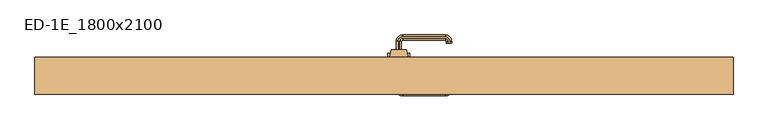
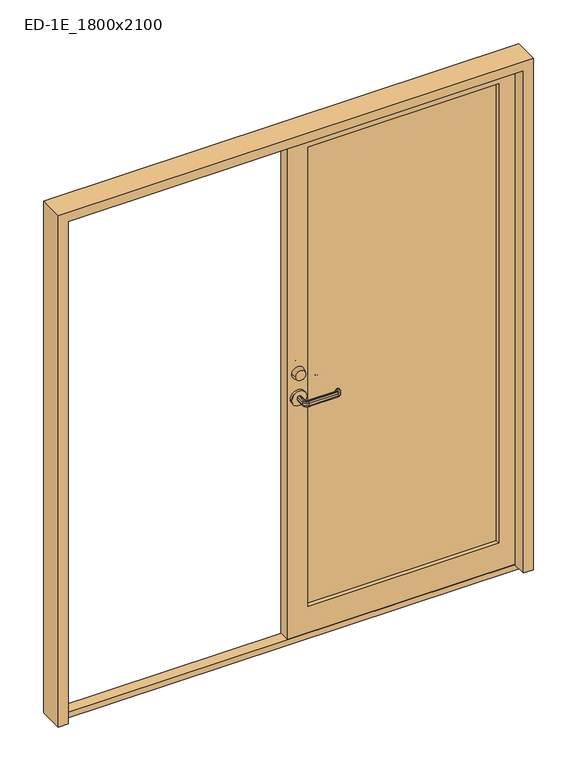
"""IFC4 building model written with IfcOpenShell, lengths in millimetres: door geometry, Steel_Doule-Door-Entrance : ED-1E_1800x2100."""

from ifc_helpers import new_model, si_unit, point, frame, frame_2d, origin, place, context, project, spatial, polyline, circle_curve, ellipse_curve, trimmed, segment, composite_curve, outline, extrude, faceted_brep, source, transform, mapped, element, save
from ifc_brep_helpers import plane_surface, cylinder_surface, revolved_surface, advanced_brep


def ed_1e_1800x2100_9003eb68(model_context):
    return source(origin(), model_context, "Body", "SolidModel", [
        extrude(outline(polyline([(915.0, 54.5), (915.0, 9.5), (-915.0, 9.5), (-915.0, 54.5), (915.0, 54.5)])), frame((0.0, 0.0, -20.0), z_axis=(0.0, 0.0, 1.0), x_axis=(1.0, 0.0, 0.0)), (0.0, 0.0, 1.0), 23.0),
        advanced_brep(
        [(20.0, 74.5, 1106.3812925), (60.0, 74.5, 1106.3812925), (15.0, 54.5, 1106.3812925), (65.0, 54.5, 1106.3812925)],
        [
            (0, 1, circle_curve(frame((40.0, 74.5, 1106.3812925), z_axis=(0.0, 1.0, 0.0), x_axis=(-1.0, 0.0, 0.0)), 20.0)),
            (1, 0, circle_curve(frame((40.0, 74.5, 1106.3812925), z_axis=(0.0, 1.0, 0.0), x_axis=(1.0, 0.0, 0.0)), 20.0)),
            (2, 3, circle_curve(frame((40.0, 54.5, 1106.3812925), z_axis=(0.0, -1.0, 0.0), x_axis=(1.0, 0.0, 0.0)), 25.0)),
            (3, 2, circle_curve(frame((40.0, 54.5, 1106.3812925), z_axis=(0.0, -1.0, 0.0), x_axis=(-1.0, 0.0, 0.0)), 25.0)),
            (2, 0),
            (1, 3),
        ],
        [
            plane_surface(frame((40.0, 74.5, 1106.3812925), z_axis=(0.0, 1.0, 0.0), x_axis=(0.0, 0.0, 1.0))),
            plane_surface(frame((40.0, 54.5, 1106.3812925), z_axis=(0.0, -1.0, 0.0), x_axis=(0.0, 0.0, 1.0))),
            revolved_surface(polyline([(60.0, 74.5, 1106.3812925), (65.0, 54.5, 1106.3812925)]), (40.0, 154.5, 1106.3812925), (0.0, -1.0, 0.0)),
            revolved_surface(polyline([(20.0, 74.5, 1106.3812925), (15.0, 54.5, 1106.3812925)]), (40.0, 154.5, 1106.3812925), (0.0, -1.0, 0.0)),
        ],
        [
            (0, [[1, 2]]),
            (1, [[3, 4]]),
            (2, [[-3, 5, -2, 6]]),
            (3, [[-4, -6, -1, -5]]),
        ],
    ),
        advanced_brep(
        [(20.0, -10.5, 1106.3812925), (60.0, -10.5, 1106.3812925), (15.0, 9.5, 1106.3812925), (65.0, 9.5, 1106.3812925)],
        [
            (0, 1, circle_curve(frame((40.0, -10.5, 1106.3812925), z_axis=(0.0, -1.0, 0.0), x_axis=(-1.0, 0.0, 0.0)), 20.0)),
            (1, 0, circle_curve(frame((40.0, -10.5, 1106.3812925), z_axis=(0.0, -1.0, 0.0), x_axis=(1.0, 0.0, 0.0)), 20.0)),
            (2, 3, circle_curve(frame((40.0, 9.5, 1106.3812925), z_axis=(0.0, 1.0, 0.0), x_axis=(1.0, 0.0, 0.0)), 25.0)),
            (3, 2, circle_curve(frame((40.0, 9.5, 1106.3812925), z_axis=(0.0, 1.0, 0.0), x_axis=(-1.0, 0.0, 0.0)), 25.0)),
            (3, 1),
            (0, 2),
        ],
        [
            plane_surface(frame((40.0, -10.5, 1106.3812925), z_axis=(0.0, -1.0, 0.0), x_axis=(0.0, 0.0, -1.0))),
            plane_surface(frame((40.0, 9.5, 1106.3812925), z_axis=(0.0, 1.0, 0.0), x_axis=(0.0, 0.0, -1.0))),
            revolved_surface(polyline([(20.0, -10.5, 1106.3812925), (15.0, 9.5, 1106.3812925)]), (40.0, -90.5, 1106.3812925), (0.0, 1.0, 0.0)),
            revolved_surface(polyline([(60.0, -10.5, 1106.3812925), (65.0, 9.5, 1106.3812925)]), (40.0, -90.5, 1106.3812925), (0.0, 1.0, 0.0)),
        ],
        [
            (0, [[1, 2]]),
            (1, [[3, 4]]),
            (2, [[-4, 5, -1, 6]]),
            (3, [[-3, -6, -2, -5]]),
        ],
    ),
        advanced_brep(
        [(38.0, 64.5, 1015.0), (33.0, 64.5, 1010.0), (33.0, 64.5, 1000.0477623), (38.0, 64.5, 995.0477623), (42.0, 64.5, 995.0477623), (47.0, 64.5, 1000.0477623), (47.0, 64.5, 1010.0), (42.0, 64.5, 1015.0), (38.0, 97.0, 1015.0), (33.0, 97.0, 1010.0), (33.0, 97.0, 1000.0477623), (38.0, 97.0, 995.0477623), (50.0, 109.0, 995.0477623), (165.0, 109.0, 995.0477623), (177.0, 97.0, 995.0477623), (177.0, 92.0, 995.0477623), (173.0, 92.0, 995.0477623), (173.0, 97.0, 995.0477623), (165.0, 105.0, 995.0477623), (50.0, 105.0, 995.0477623), (42.0, 97.0, 995.0477623), (47.0, 97.0, 1000.0477623), (47.0, 97.0, 1010.0), (42.0, 97.0, 1015.0), (50.0, 105.0, 1015.0), (165.0, 105.0, 1015.0), (173.0, 97.0, 1015.0), (173.0, 92.0, 1015.0), (177.0, 92.0, 1015.0), (177.0, 97.0, 1015.0), (165.0, 109.0, 1015.0), (50.0, 109.0, 1015.0), (50.0, 114.0, 1010.0), (50.0, 114.0, 1000.0477623), (50.0, 100.0, 1000.0477623), (50.0, 100.0, 1010.0), (165.0, 114.0, 1010.0), (165.0, 114.0, 1000.0477623), (165.0, 100.0, 1000.0477623), (165.0, 100.0, 1010.0), (182.0, 97.0, 1010.0), (182.0, 97.0, 1000.0477623), (168.0, 97.0, 1000.0477623), (168.0, 97.0, 1010.0), (168.0, 92.0, 1010.0), (168.0, 92.0, 1000.0477623), (182.0, 92.0, 1000.0477623), (182.0, 92.0, 1010.0)],
        [
            (0, 1, circle_curve(frame((38.0, 64.5, 1010.0), z_axis=(0.0, -1.0, 0.0), x_axis=(-1.0, 0.0, 0.0)), 5.0)),
            (1, 2),
            (2, 3, circle_curve(frame((38.0, 64.5, 1000.0477623), z_axis=(0.0, -1.0, 0.0), x_axis=(-1.0, 0.0, 0.0)), 5.0)),
            (3, 4),
            (4, 5, circle_curve(frame((42.0, 64.5, 1000.0477623), z_axis=(0.0, -1.0, 0.0), x_axis=(-1.0, 0.0, 0.0)), 5.0)),
            (5, 6),
            (6, 7, circle_curve(frame((42.0, 64.5, 1010.0), z_axis=(0.0, -1.0, 0.0), x_axis=(-1.0, 0.0, 0.0)), 5.0)),
            (7, 0),
            (0, 8),
            (8, 9, circle_curve(frame((38.0, 97.0, 1010.0), z_axis=(0.0, -1.0, 0.0), x_axis=(-1.0, 0.0, 0.0)), 5.0)),
            (9, 1),
            (9, 10),
            (10, 2),
            (10, 11, circle_curve(frame((38.0, 97.0, 1000.0477623), z_axis=(0.0, -1.0, 0.0), x_axis=(-1.0, 0.0, 0.0)), 5.0)),
            (11, 3),
            (11, 12, circle_curve(frame((50.0, 97.0, 995.0477623), z_axis=(0.0, 0.0, -1.0), x_axis=(-1.0, 0.0, 0.0)), 12.0)),
            (12, 13),
            (13, 14, circle_curve(frame((165.0, 97.0, 995.0477623), z_axis=(0.0, 0.0, -1.0), x_axis=(0.0, 1.0, 0.0)), 12.0)),
            (14, 15),
            (15, 16),
            (16, 17),
            (17, 18, circle_curve(frame((165.0, 97.0, 995.0477623), z_axis=(0.0, 0.0, 1.0), x_axis=(0.0, 1.0, 0.0)), 8.0)),
            (18, 19),
            (19, 20, circle_curve(frame((50.0, 97.0, 995.0477623), z_axis=(0.0, 0.0, 1.0), x_axis=(-1.0, 0.0, 0.0)), 8.0)),
            (20, 4),
            (20, 21, circle_curve(frame((42.0, 97.0, 1000.0477623), z_axis=(0.0, -1.0, 0.0), x_axis=(-1.0, 0.0, 0.0)), 5.0)),
            (21, 5),
            (21, 22),
            (22, 6),
            (22, 23, circle_curve(frame((42.0, 97.0, 1010.0), z_axis=(0.0, -1.0, 0.0), x_axis=(-1.0, 0.0, 0.0)), 5.0)),
            (23, 7),
            (23, 24, circle_curve(frame((50.0, 97.0, 1015.0), z_axis=(0.0, 0.0, -1.0), x_axis=(-1.0, 0.0, 0.0)), 8.0)),
            (24, 25),
            (25, 26, circle_curve(frame((165.0, 97.0, 1015.0), z_axis=(0.0, 0.0, -1.0), x_axis=(0.0, 1.0, 0.0)), 8.0)),
            (26, 27),
            (27, 28),
            (28, 29),
            (29, 30, circle_curve(frame((165.0, 97.0, 1015.0), z_axis=(0.0, 0.0, 1.0), x_axis=(0.0, 1.0, 0.0)), 12.0)),
            (30, 31),
            (31, 8, circle_curve(frame((50.0, 97.0, 1015.0), z_axis=(0.0, 0.0, 1.0), x_axis=(-1.0, 0.0, 0.0)), 12.0)),
            (32, 9, circle_curve(frame((50.0, 97.0, 1010.0), z_axis=(0.0, 0.0, 1.0), x_axis=(-1.0, 0.0, 0.0)), 17.0)),
            (31, 32, circle_curve(frame((50.0, 109.0, 1010.0), z_axis=(-1.0, 0.0, 0.0), x_axis=(0.0, 1.0, 0.0)), 5.0)),
            (33, 10, circle_curve(frame((50.0, 97.0, 1000.0477623), z_axis=(0.0, 0.0, 1.0), x_axis=(-1.0, 0.0, 0.0)), 17.0)),
            (32, 33),
            (33, 12, circle_curve(frame((50.0, 109.0, 1000.0477623), z_axis=(-1.0, 0.0, 0.0), x_axis=(0.0, 1.0, 0.0)), 5.0)),
            (34, 21, circle_curve(frame((50.0, 97.0, 1000.0477623), z_axis=(0.0, 0.0, 1.0), x_axis=(-1.0, 0.0, 0.0)), 3.0)),
            (19, 34, circle_curve(frame((50.0, 105.0, 1000.0477623), z_axis=(-1.0, 0.0, 0.0), x_axis=(0.0, 1.0, 0.0)), 5.0)),
            (35, 22, circle_curve(frame((50.0, 97.0, 1010.0), z_axis=(0.0, 0.0, 1.0), x_axis=(-1.0, 0.0, 0.0)), 3.0)),
            (34, 35),
            (35, 24, circle_curve(frame((50.0, 105.0, 1010.0), z_axis=(-1.0, 0.0, 0.0), x_axis=(0.0, 1.0, 0.0)), 5.0)),
            (30, 36, circle_curve(frame((165.0, 109.0, 1010.0), z_axis=(-1.0, 0.0, 0.0), x_axis=(0.0, 1.0, 0.0)), 5.0)),
            (36, 32),
            (36, 37),
            (37, 33),
            (37, 13, circle_curve(frame((165.0, 109.0, 1000.0477623), z_axis=(-1.0, 0.0, 0.0), x_axis=(0.0, 1.0, 0.0)), 5.0)),
            (18, 38, circle_curve(frame((165.0, 105.0, 1000.0477623), z_axis=(-1.0, 0.0, 0.0), x_axis=(0.0, 1.0, 0.0)), 5.0)),
            (38, 34),
            (38, 39),
            (39, 35),
            (39, 25, circle_curve(frame((165.0, 105.0, 1010.0), z_axis=(-1.0, 0.0, 0.0), x_axis=(0.0, 1.0, 0.0)), 5.0)),
            (40, 36, circle_curve(frame((165.0, 97.0, 1010.0), z_axis=(0.0, 0.0, 1.0), x_axis=(0.0, 1.0, 0.0)), 17.0)),
            (29, 40, circle_curve(frame((177.0, 97.0, 1010.0), z_axis=(0.0, 1.0, 0.0), x_axis=(1.0, 0.0, 0.0)), 5.0)),
            (41, 37, circle_curve(frame((165.0, 97.0, 1000.0477623), z_axis=(0.0, 0.0, 1.0), x_axis=(0.0, 1.0, 0.0)), 17.0)),
            (40, 41),
            (41, 14, circle_curve(frame((177.0, 97.0, 1000.0477623), z_axis=(0.0, 1.0, 0.0), x_axis=(1.0, 0.0, 0.0)), 5.0)),
            (42, 38, circle_curve(frame((165.0, 97.0, 1000.0477623), z_axis=(0.0, 0.0, 1.0), x_axis=(0.0, 1.0, 0.0)), 3.0)),
            (17, 42, circle_curve(frame((173.0, 97.0, 1000.0477623), z_axis=(0.0, 1.0, 0.0), x_axis=(1.0, 0.0, 0.0)), 5.0)),
            (43, 39, circle_curve(frame((165.0, 97.0, 1010.0), z_axis=(0.0, 0.0, 1.0), x_axis=(0.0, 1.0, 0.0)), 3.0)),
            (42, 43),
            (43, 26, circle_curve(frame((173.0, 97.0, 1010.0), z_axis=(0.0, 1.0, 0.0), x_axis=(1.0, 0.0, 0.0)), 5.0)),
            (27, 44, circle_curve(frame((173.0, 92.0, 1010.0), z_axis=(0.0, -1.0, 0.0), x_axis=(1.0, 0.0, 0.0)), 5.0)),
            (44, 45),
            (45, 16, circle_curve(frame((173.0, 92.0, 1000.0477623), z_axis=(0.0, -1.0, 0.0), x_axis=(1.0, 0.0, 0.0)), 5.0)),
            (15, 46, circle_curve(frame((177.0, 92.0, 1000.0477623), z_axis=(0.0, -1.0, 0.0), x_axis=(1.0, 0.0, 0.0)), 5.0)),
            (46, 47),
            (47, 28, circle_curve(frame((177.0, 92.0, 1010.0), z_axis=(0.0, -1.0, 0.0), x_axis=(1.0, 0.0, 0.0)), 5.0)),
            (47, 40),
            (46, 41),
            (45, 42),
            (44, 43),
        ],
        [
            plane_surface(frame((29.801961, 64.5, 1005.0), z_axis=(0.0, -1.0, 0.0), x_axis=(0.0, 0.0, 1.0))),
            cylinder_surface(frame((38.0, 64.5, 1010.0), z_axis=(0.0, -1.0, 0.0), x_axis=(-1.0, 0.0, 0.0)), 5.0),
            plane_surface(frame((33.0, 64.5, 1010.0), z_axis=(-1.0, 0.0, 0.0), x_axis=(0.0, 1.0, 0.0))),
            cylinder_surface(frame((38.0, 64.5, 1000.0477623), z_axis=(0.0, -1.0, 0.0), x_axis=(-1.0, 0.0, 0.0)), 5.0),
            plane_surface(frame((38.0, 64.5, 995.0477623), z_axis=(0.0, 0.0, -1.0), x_axis=(0.0, 1.0, 0.0))),
            cylinder_surface(frame((42.0, 64.5, 1000.0477623), z_axis=(0.0, -1.0, 0.0), x_axis=(-1.0, 0.0, 0.0)), 5.0),
            plane_surface(frame((47.0, 64.5, 1000.0477623), z_axis=(1.0, 0.0, 0.0), x_axis=(0.0, 1.0, 0.0))),
            cylinder_surface(frame((42.0, 64.5, 1010.0), z_axis=(0.0, -1.0, 0.0), x_axis=(-1.0, 0.0, 0.0)), 5.0),
            plane_surface(frame((42.0, 64.5, 1015.0), z_axis=(0.0, 0.0, 1.0), x_axis=(0.0, 1.0, 0.0))),
            revolved_surface(trimmed(ellipse_curve(frame((38.0, 97.0, 1010.0), z_axis=(0.0, -1.0, 0.0), x_axis=(-1.0, 0.0, 0.0)), 5.0, 5.0), [point((38.0, 97.0, 1015.0))], [point((33.0, 97.0, 1010.0))], True, "CARTESIAN"), (50.0, 97.0, 1005.0), (0.0, 0.0, -1.0)),
            cylinder_surface(frame((50.0, 97.0, 1005.0), z_axis=(0.0, 0.0, -1.0), x_axis=(-1.0, 0.0, 0.0)), 17.0),
            revolved_surface(trimmed(ellipse_curve(frame((38.0, 97.0, 1000.0477623), z_axis=(0.0, -1.0, 0.0), x_axis=(-1.0, 0.0, 0.0)), 5.0, 5.0), [point((33.0, 97.0, 1000.0477623))], [point((38.0, 97.0, 995.0477623))], True, "CARTESIAN"), (50.0, 97.0, 1005.0), (0.0, 0.0, -1.0)),
            revolved_surface(trimmed(ellipse_curve(frame((42.0, 97.0, 1000.0477623), z_axis=(0.0, -1.0, 0.0), x_axis=(-1.0, 0.0, 0.0)), 5.0, 5.0), [point((42.0, 97.0, 995.0477623))], [point((47.0, 97.0, 1000.0477623))], True, "CARTESIAN"), (50.0, 97.0, 1005.0), (0.0, 0.0, -1.0)),
            revolved_surface(polyline([(47.0, 97.0, 1000.0477623), (47.0, 97.0, 1010.0)]), (50.0, 97.0, 1005.0), (0.0, 0.0, -1.0)),
            revolved_surface(trimmed(ellipse_curve(frame((42.0, 97.0, 1010.0), z_axis=(0.0, -1.0, 0.0), x_axis=(-1.0, 0.0, 0.0)), 5.0, 5.0), [point((47.0, 97.0, 1010.0))], [point((42.0, 97.0, 1015.0))], True, "CARTESIAN"), (50.0, 97.0, 1005.0), (0.0, 0.0, -1.0)),
            cylinder_surface(frame((50.0, 109.0, 1010.0), z_axis=(-1.0, 0.0, 0.0), x_axis=(0.0, 1.0, 0.0)), 5.0),
            plane_surface(frame((50.0, 114.0, 1010.0), z_axis=(0.0, 1.0, 0.0), x_axis=(1.0, 0.0, 0.0))),
            cylinder_surface(frame((50.0, 109.0, 1000.0477623), z_axis=(-1.0, 0.0, 0.0), x_axis=(0.0, 1.0, 0.0)), 5.0),
            cylinder_surface(frame((50.0, 105.0, 1000.0477623), z_axis=(-1.0, 0.0, 0.0), x_axis=(0.0, 1.0, 0.0)), 5.0),
            plane_surface(frame((50.0, 100.0, 1000.0477623), z_axis=(0.0, -1.0, 0.0), x_axis=(1.0, 0.0, 0.0))),
            cylinder_surface(frame((50.0, 105.0, 1010.0), z_axis=(-1.0, 0.0, 0.0), x_axis=(0.0, 1.0, 0.0)), 5.0),
            revolved_surface(trimmed(ellipse_curve(frame((165.0, 109.0, 1010.0), z_axis=(-1.0, 0.0, 0.0), x_axis=(0.0, 1.0, 0.0)), 5.0, 5.0), [point((165.0, 109.0, 1015.0))], [point((165.0, 114.0, 1010.0))], True, "CARTESIAN"), (165.0, 97.0, 1005.0), (0.0, 0.0, -1.0)),
            cylinder_surface(frame((165.0, 97.0, 1005.0), z_axis=(0.0, 0.0, -1.0), x_axis=(0.0, 1.0, 0.0)), 17.0),
            revolved_surface(trimmed(ellipse_curve(frame((165.0, 109.0, 1000.0477623), z_axis=(-1.0, 0.0, 0.0), x_axis=(0.0, 1.0, 0.0)), 5.0, 5.0), [point((165.0, 114.0, 1000.0477623))], [point((165.0, 109.0, 995.0477623))], True, "CARTESIAN"), (165.0, 97.0, 1005.0), (0.0, 0.0, -1.0)),
            revolved_surface(trimmed(ellipse_curve(frame((165.0, 105.0, 1000.0477623), z_axis=(-1.0, 0.0, 0.0), x_axis=(0.0, 1.0, 0.0)), 5.0, 5.0), [point((165.0, 105.0, 995.0477623))], [point((165.0, 100.0, 1000.0477623))], True, "CARTESIAN"), (165.0, 97.0, 1005.0), (0.0, 0.0, -1.0)),
            revolved_surface(polyline([(165.0, 100.0, 1000.0477623), (165.0, 100.0, 1010.0)]), (165.0, 97.0, 1005.0), (0.0, 0.0, -1.0)),
            revolved_surface(trimmed(ellipse_curve(frame((165.0, 105.0, 1010.0), z_axis=(-1.0, 0.0, 0.0), x_axis=(0.0, 1.0, 0.0)), 5.0, 5.0), [point((165.0, 100.0, 1010.0))], [point((165.0, 105.0, 1015.0))], True, "CARTESIAN"), (165.0, 97.0, 1005.0), (0.0, 0.0, -1.0)),
            plane_surface(frame((164.801961, 92.0, 1005.0), z_axis=(0.0, -1.0, 0.0), x_axis=(0.0, 0.0, -1.0))),
            cylinder_surface(frame((177.0, 97.0, 1010.0), z_axis=(0.0, 1.0, 0.0), x_axis=(1.0, 0.0, 0.0)), 5.0),
            plane_surface(frame((182.0, 97.0, 1010.0), z_axis=(1.0, 0.0, 0.0), x_axis=(0.0, -1.0, 0.0))),
            cylinder_surface(frame((177.0, 97.0, 1000.0477623), z_axis=(0.0, 1.0, 0.0), x_axis=(1.0, 0.0, 0.0)), 5.0),
            cylinder_surface(frame((173.0, 97.0, 1000.0477623), z_axis=(0.0, 1.0, 0.0), x_axis=(1.0, 0.0, 0.0)), 5.0),
            plane_surface(frame((168.0, 97.0, 1000.0477623), z_axis=(-1.0, 0.0, 0.0), x_axis=(0.0, -1.0, 0.0))),
            cylinder_surface(frame((173.0, 97.0, 1010.0), z_axis=(0.0, 1.0, 0.0), x_axis=(1.0, 0.0, 0.0)), 5.0),
        ],
        [
            (0, [[1, 2, 3, 4, 5, 6, 7, 8]]),
            (1, [[-1, 9, 10, 11]]),
            (2, [[-2, -11, 12, 13]]),
            (3, [[-3, -13, 14, 15]]),
            (4, [[-4, -15, 16, 17, 18, 19, 20, 21, 22, 23, 24, 25]]),
            (5, [[-5, -25, 26, 27]]),
            (6, [[-6, -27, 28, 29]]),
            (7, [[-7, -29, 30, 31]]),
            (8, [[-8, -31, 32, 33, 34, 35, 36, 37, 38, 39, 40, -9]]),
            (9, [[41, -10, -40, 42]]),
            (10, [[43, -12, -41, 44]]),
            (11, [[-16, -14, -43, 45]]),
            (12, [[46, -26, -24, 47]]),
            (13, [[48, -28, -46, 49]]),
            (14, [[-32, -30, -48, 50]]),
            (15, [[-42, -39, 51, 52]]),
            (16, [[-44, -52, 53, 54]]),
            (17, [[-45, -54, 55, -17]]),
            (18, [[-47, -23, 56, 57]]),
            (19, [[-49, -57, 58, 59]]),
            (20, [[-50, -59, 60, -33]]),
            (21, [[61, -51, -38, 62]]),
            (22, [[63, -53, -61, 64]]),
            (23, [[-18, -55, -63, 65]]),
            (24, [[66, -56, -22, 67]]),
            (25, [[68, -58, -66, 69]]),
            (26, [[-34, -60, -68, 70]]),
            (27, [[-36, 71, 72, 73, -20, 74, 75, 76]]),
            (28, [[-62, -37, -76, 77]]),
            (29, [[-64, -77, -75, 78]]),
            (30, [[-65, -78, -74, -19]]),
            (31, [[-67, -21, -73, 79]]),
            (32, [[-69, -79, -72, 80]]),
            (33, [[-70, -80, -71, -35]]),
        ],
    ),
        advanced_brep(
        [(42.0, -0.5, 995.0), (38.0, -0.5, 995.0), (33.0, -0.5, 1000.0), (33.0, -0.5, 1010.0), (38.0, -0.5, 1015.0), (42.0, -0.5, 1015.0), (47.0, -0.5, 1010.0), (47.0, -0.5, 1000.0), (42.0, -33.0, 995.0), (50.0, -41.0, 995.0), (165.0, -41.0, 995.0), (173.0, -33.0, 995.0), (173.0, -28.0, 995.0), (177.0, -28.0, 995.0), (177.0, -33.0, 995.0), (165.0, -45.0, 995.0), (50.0, -45.0, 995.0), (38.0, -33.0, 995.0), (33.0, -33.0, 1000.0), (33.0, -33.0, 1010.0), (38.0, -33.0, 1015.0), (50.0, -45.0, 1015.0), (165.0, -45.0, 1015.0), (177.0, -33.0, 1015.0), (177.0, -28.0, 1015.0), (173.0, -28.0, 1015.0), (173.0, -33.0, 1015.0), (165.0, -41.0, 1015.0), (50.0, -41.0, 1015.0), (42.0, -33.0, 1015.0), (47.0, -33.0, 1010.0), (47.0, -33.0, 1000.0), (50.0, -50.0, 1000.0), (50.0, -50.0, 1010.0), (50.0, -36.0, 1010.0), (50.0, -36.0, 1000.0), (165.0, -50.0, 1000.0), (165.0, -50.0, 1010.0), (165.0, -36.0, 1010.0), (165.0, -36.0, 1000.0), (182.0, -33.0, 1000.0), (182.0, -33.0, 1010.0), (168.0, -33.0, 1010.0), (168.0, -33.0, 1000.0), (168.0, -28.0, 1000.0), (168.0, -28.0, 1010.0), (182.0, -28.0, 1010.0), (182.0, -28.0, 1000.0)],
        [
            (0, 1),
            (1, 2, circle_curve(frame((38.0, -0.5, 1000.0), z_axis=(0.0, 1.0, 0.0), x_axis=(1.0, 0.0, 0.0)), 5.0)),
            (2, 3),
            (3, 4, circle_curve(frame((38.0, -0.5, 1010.0), z_axis=(0.0, 1.0, 0.0), x_axis=(1.0, 0.0, 0.0)), 5.0)),
            (4, 5),
            (5, 6, circle_curve(frame((42.0, -0.5, 1010.0), z_axis=(0.0, 1.0, 0.0), x_axis=(1.0, 0.0, 0.0)), 5.0)),
            (6, 7),
            (7, 0, circle_curve(frame((42.0, -0.5, 1000.0), z_axis=(0.0, 1.0, 0.0), x_axis=(1.0, 0.0, 0.0)), 5.0)),
            (0, 8),
            (8, 9, circle_curve(frame((50.0, -33.0, 995.0), z_axis=(0.0, 0.0, 1.0), x_axis=(-1.0, 0.0, 0.0)), 8.0)),
            (9, 10),
            (10, 11, circle_curve(frame((165.0, -33.0, 995.0), z_axis=(0.0, 0.0, 1.0), x_axis=(0.0, -1.0, 0.0)), 8.0)),
            (11, 12),
            (12, 13),
            (13, 14),
            (14, 15, circle_curve(frame((165.0, -33.0, 995.0), z_axis=(0.0, 0.0, -1.0), x_axis=(0.0, -1.0, 0.0)), 12.0)),
            (15, 16),
            (16, 17, circle_curve(frame((50.0, -33.0, 995.0), z_axis=(0.0, 0.0, -1.0), x_axis=(-1.0, 0.0, 0.0)), 12.0)),
            (17, 1),
            (17, 18, circle_curve(frame((38.0, -33.0, 1000.0), z_axis=(0.0, 1.0, 0.0), x_axis=(1.0, 0.0, 0.0)), 5.0)),
            (18, 2),
            (18, 19),
            (19, 3),
            (19, 20, circle_curve(frame((38.0, -33.0, 1010.0), z_axis=(0.0, 1.0, 0.0), x_axis=(1.0, 0.0, 0.0)), 5.0)),
            (20, 4),
            (20, 21, circle_curve(frame((50.0, -33.0, 1015.0), z_axis=(0.0, 0.0, 1.0), x_axis=(-1.0, 0.0, 0.0)), 12.0)),
            (21, 22),
            (22, 23, circle_curve(frame((165.0, -33.0, 1015.0), z_axis=(0.0, 0.0, 1.0), x_axis=(0.0, -1.0, 0.0)), 12.0)),
            (23, 24),
            (24, 25),
            (25, 26),
            (26, 27, circle_curve(frame((165.0, -33.0, 1015.0), z_axis=(0.0, 0.0, -1.0), x_axis=(0.0, -1.0, 0.0)), 8.0)),
            (27, 28),
            (28, 29, circle_curve(frame((50.0, -33.0, 1015.0), z_axis=(0.0, 0.0, -1.0), x_axis=(-1.0, 0.0, 0.0)), 8.0)),
            (29, 5),
            (29, 30, circle_curve(frame((42.0, -33.0, 1010.0), z_axis=(0.0, 1.0, 0.0), x_axis=(1.0, 0.0, 0.0)), 5.0)),
            (30, 6),
            (30, 31),
            (31, 7),
            (31, 8, circle_curve(frame((42.0, -33.0, 1000.0), z_axis=(0.0, 1.0, 0.0), x_axis=(1.0, 0.0, 0.0)), 5.0)),
            (32, 18, circle_curve(frame((50.0, -33.0, 1000.0), z_axis=(0.0, 0.0, -1.0), x_axis=(-1.0, 0.0, 0.0)), 17.0)),
            (16, 32, circle_curve(frame((50.0, -45.0, 1000.0), z_axis=(-1.0, 0.0, 0.0), x_axis=(0.0, 1.0, 0.0)), 5.0)),
            (33, 19, circle_curve(frame((50.0, -33.0, 1010.0), z_axis=(0.0, 0.0, -1.0), x_axis=(-1.0, 0.0, 0.0)), 17.0)),
            (32, 33),
            (33, 21, circle_curve(frame((50.0, -45.0, 1010.0), z_axis=(-1.0, 0.0, 0.0), x_axis=(0.0, 1.0, 0.0)), 5.0)),
            (34, 30, circle_curve(frame((50.0, -33.0, 1010.0), z_axis=(0.0, 0.0, -1.0), x_axis=(-1.0, 0.0, 0.0)), 3.0)),
            (28, 34, circle_curve(frame((50.0, -41.0, 1010.0), z_axis=(-1.0, 0.0, 0.0), x_axis=(0.0, 1.0, 0.0)), 5.0)),
            (35, 31, circle_curve(frame((50.0, -33.0, 1000.0), z_axis=(0.0, 0.0, -1.0), x_axis=(-1.0, 0.0, 0.0)), 3.0)),
            (34, 35),
            (35, 9, circle_curve(frame((50.0, -41.0, 1000.0), z_axis=(-1.0, 0.0, 0.0), x_axis=(0.0, 1.0, 0.0)), 5.0)),
            (15, 36, circle_curve(frame((165.0, -45.0, 1000.0), z_axis=(-1.0, 0.0, 0.0), x_axis=(0.0, 1.0, 0.0)), 5.0)),
            (36, 32),
            (36, 37),
            (37, 33),
            (37, 22, circle_curve(frame((165.0, -45.0, 1010.0), z_axis=(-1.0, 0.0, 0.0), x_axis=(0.0, 1.0, 0.0)), 5.0)),
            (27, 38, circle_curve(frame((165.0, -41.0, 1010.0), z_axis=(-1.0, 0.0, 0.0), x_axis=(0.0, 1.0, 0.0)), 5.0)),
            (38, 34),
            (38, 39),
            (39, 35),
            (39, 10, circle_curve(frame((165.0, -41.0, 1000.0), z_axis=(-1.0, 0.0, 0.0), x_axis=(0.0, 1.0, 0.0)), 5.0)),
            (40, 36, circle_curve(frame((165.0, -33.0, 1000.0), z_axis=(0.0, 0.0, -1.0), x_axis=(0.0, -1.0, 0.0)), 17.0)),
            (14, 40, circle_curve(frame((177.0, -33.0, 1000.0), z_axis=(0.0, -1.0, 0.0), x_axis=(-1.0, 0.0, 0.0)), 5.0)),
            (41, 37, circle_curve(frame((165.0, -33.0, 1010.0), z_axis=(0.0, 0.0, -1.0), x_axis=(0.0, -1.0, 0.0)), 17.0)),
            (40, 41),
            (41, 23, circle_curve(frame((177.0, -33.0, 1010.0), z_axis=(0.0, -1.0, 0.0), x_axis=(-1.0, 0.0, 0.0)), 5.0)),
            (42, 38, circle_curve(frame((165.0, -33.0, 1010.0), z_axis=(0.0, 0.0, -1.0), x_axis=(0.0, -1.0, 0.0)), 3.0)),
            (26, 42, circle_curve(frame((173.0, -33.0, 1010.0), z_axis=(0.0, -1.0, 0.0), x_axis=(-1.0, 0.0, 0.0)), 5.0)),
            (43, 39, circle_curve(frame((165.0, -33.0, 1000.0), z_axis=(0.0, 0.0, -1.0), x_axis=(0.0, -1.0, 0.0)), 3.0)),
            (42, 43),
            (43, 11, circle_curve(frame((173.0, -33.0, 1000.0), z_axis=(0.0, -1.0, 0.0), x_axis=(-1.0, 0.0, 0.0)), 5.0)),
            (12, 44, circle_curve(frame((173.0, -28.0, 1000.0), z_axis=(0.0, 1.0, 0.0), x_axis=(-1.0, 0.0, 0.0)), 5.0)),
            (44, 45),
            (45, 25, circle_curve(frame((173.0, -28.0, 1010.0), z_axis=(0.0, 1.0, 0.0), x_axis=(-1.0, 0.0, 0.0)), 5.0)),
            (24, 46, circle_curve(frame((177.0, -28.0, 1010.0), z_axis=(0.0, 1.0, 0.0), x_axis=(-1.0, 0.0, 0.0)), 5.0)),
            (46, 47),
            (47, 13, circle_curve(frame((177.0, -28.0, 1000.0), z_axis=(0.0, 1.0, 0.0), x_axis=(-1.0, 0.0, 0.0)), 5.0)),
            (47, 40),
            (46, 41),
            (45, 42),
            (44, 43),
        ],
        [
            plane_surface(frame((29.801961, -0.5, 1005.0), z_axis=(0.0, 1.0, 0.0), x_axis=(0.0, 0.0, -1.0))),
            plane_surface(frame((42.0, -0.5, 995.0), z_axis=(0.0, 0.0, -1.0), x_axis=(0.0, -1.0, 0.0))),
            cylinder_surface(frame((38.0, -0.5, 1000.0), z_axis=(0.0, 1.0, 0.0), x_axis=(1.0, 0.0, 0.0)), 5.0),
            plane_surface(frame((33.0, -0.5, 1000.0), z_axis=(-1.0, 0.0, 0.0), x_axis=(0.0, -1.0, 0.0))),
            cylinder_surface(frame((38.0, -0.5, 1010.0), z_axis=(0.0, 1.0, 0.0), x_axis=(1.0, 0.0, 0.0)), 5.0),
            plane_surface(frame((38.0, -0.5, 1015.0), z_axis=(0.0, 0.0, 1.0), x_axis=(0.0, -1.0, 0.0))),
            cylinder_surface(frame((42.0, -0.5, 1010.0), z_axis=(0.0, 1.0, 0.0), x_axis=(1.0, 0.0, 0.0)), 5.0),
            plane_surface(frame((47.0, -0.5, 1010.0), z_axis=(1.0, 0.0, 0.0), x_axis=(0.0, -1.0, 0.0))),
            cylinder_surface(frame((42.0, -0.5, 1000.0), z_axis=(0.0, 1.0, 0.0), x_axis=(1.0, 0.0, 0.0)), 5.0),
            revolved_surface(trimmed(ellipse_curve(frame((38.0, -33.0, 1000.0), z_axis=(0.0, 1.0, 0.0), x_axis=(1.0, 0.0, 0.0)), 5.0, 5.0), [point((38.0, -33.0, 995.0))], [point((33.0, -33.0, 1000.0))], True, "CARTESIAN"), (50.0, -33.0, 1005.0), (0.0, 0.0, 1.0)),
            cylinder_surface(frame((50.0, -33.0, 1005.0), z_axis=(0.0, 0.0, 1.0), x_axis=(-1.0, 0.0, 0.0)), 17.0),
            revolved_surface(trimmed(ellipse_curve(frame((38.0, -33.0, 1010.0), z_axis=(0.0, 1.0, 0.0), x_axis=(1.0, 0.0, 0.0)), 5.0, 5.0), [point((33.0, -33.0, 1010.0))], [point((38.0, -33.0, 1015.0))], True, "CARTESIAN"), (50.0, -33.0, 1005.0), (0.0, 0.0, 1.0)),
            revolved_surface(trimmed(ellipse_curve(frame((42.0, -33.0, 1010.0), z_axis=(0.0, 1.0, 0.0), x_axis=(1.0, 0.0, 0.0)), 5.0, 5.0), [point((42.0, -33.0, 1015.0))], [point((47.0, -33.0, 1010.0))], True, "CARTESIAN"), (50.0, -33.0, 1005.0), (0.0, 0.0, 1.0)),
            revolved_surface(polyline([(47.0, -33.0, 1010.0), (47.0, -33.0, 1000.0)]), (50.0, -33.0, 1005.0), (0.0, 0.0, 1.0)),
            revolved_surface(trimmed(ellipse_curve(frame((42.0, -33.0, 1000.0), z_axis=(0.0, 1.0, 0.0), x_axis=(1.0, 0.0, 0.0)), 5.0, 5.0), [point((47.0, -33.0, 1000.0))], [point((42.0, -33.0, 995.0))], True, "CARTESIAN"), (50.0, -33.0, 1005.0), (0.0, 0.0, 1.0)),
            cylinder_surface(frame((50.0, -45.0, 1000.0), z_axis=(-1.0, 0.0, 0.0), x_axis=(0.0, 1.0, 0.0)), 5.0),
            plane_surface(frame((50.0, -50.0, 1000.0), z_axis=(0.0, -1.0, 0.0), x_axis=(1.0, 0.0, 0.0))),
            cylinder_surface(frame((50.0, -45.0, 1010.0), z_axis=(-1.0, 0.0, 0.0), x_axis=(0.0, 1.0, 0.0)), 5.0),
            cylinder_surface(frame((50.0, -41.0, 1010.0), z_axis=(-1.0, 0.0, 0.0), x_axis=(0.0, 1.0, 0.0)), 5.0),
            plane_surface(frame((50.0, -36.0, 1010.0), z_axis=(0.0, 1.0, 0.0), x_axis=(1.0, 0.0, 0.0))),
            cylinder_surface(frame((50.0, -41.0, 1000.0), z_axis=(-1.0, 0.0, 0.0), x_axis=(0.0, 1.0, 0.0)), 5.0),
            revolved_surface(trimmed(ellipse_curve(frame((165.0, -45.0, 1000.0), z_axis=(-1.0, 0.0, 0.0), x_axis=(0.0, 1.0, 0.0)), 5.0, 5.0), [point((165.0, -45.0, 995.0))], [point((165.0, -50.0, 1000.0))], True, "CARTESIAN"), (165.0, -33.0, 1005.0), (0.0, 0.0, 1.0)),
            cylinder_surface(frame((165.0, -33.0, 1005.0), z_axis=(0.0, 0.0, 1.0), x_axis=(0.0, -1.0, 0.0)), 17.0),
            revolved_surface(trimmed(ellipse_curve(frame((165.0, -45.0, 1010.0), z_axis=(-1.0, 0.0, 0.0), x_axis=(0.0, 1.0, 0.0)), 5.0, 5.0), [point((165.0, -50.0, 1010.0))], [point((165.0, -45.0, 1015.0))], True, "CARTESIAN"), (165.0, -33.0, 1005.0), (0.0, 0.0, 1.0)),
            revolved_surface(trimmed(ellipse_curve(frame((165.0, -41.0, 1010.0), z_axis=(-1.0, 0.0, 0.0), x_axis=(0.0, 1.0, 0.0)), 5.0, 5.0), [point((165.0, -41.0, 1015.0))], [point((165.0, -36.0, 1010.0))], True, "CARTESIAN"), (165.0, -33.0, 1005.0), (0.0, 0.0, 1.0)),
            revolved_surface(polyline([(165.0, -36.0, 1010.0), (165.0, -36.0, 1000.0)]), (165.0, -33.0, 1005.0), (0.0, 0.0, 1.0)),
            revolved_surface(trimmed(ellipse_curve(frame((165.0, -41.0, 1000.0), z_axis=(-1.0, 0.0, 0.0), x_axis=(0.0, 1.0, 0.0)), 5.0, 5.0), [point((165.0, -36.0, 1000.0))], [point((165.0, -41.0, 995.0))], True, "CARTESIAN"), (165.0, -33.0, 1005.0), (0.0, 0.0, 1.0)),
            plane_surface(frame((164.801961, -28.0, 1005.0), z_axis=(0.0, 1.0, 0.0), x_axis=(0.0, 0.0, 1.0))),
            cylinder_surface(frame((177.0, -33.0, 1000.0), z_axis=(0.0, -1.0, 0.0), x_axis=(-1.0, 0.0, 0.0)), 5.0),
            plane_surface(frame((182.0, -33.0, 1000.0), z_axis=(1.0, 0.0, 0.0), x_axis=(0.0, 1.0, 0.0))),
            cylinder_surface(frame((177.0, -33.0, 1010.0), z_axis=(0.0, -1.0, 0.0), x_axis=(-1.0, 0.0, 0.0)), 5.0),
            cylinder_surface(frame((173.0, -33.0, 1010.0), z_axis=(0.0, -1.0, 0.0), x_axis=(-1.0, 0.0, 0.0)), 5.0),
            plane_surface(frame((168.0, -33.0, 1010.0), z_axis=(-1.0, 0.0, 0.0), x_axis=(0.0, 1.0, 0.0))),
            cylinder_surface(frame((173.0, -33.0, 1000.0), z_axis=(0.0, -1.0, 0.0), x_axis=(-1.0, 0.0, 0.0)), 5.0),
        ],
        [
            (0, [[1, 2, 3, 4, 5, 6, 7, 8]]),
            (1, [[-1, 9, 10, 11, 12, 13, 14, 15, 16, 17, 18, 19]]),
            (2, [[-2, -19, 20, 21]]),
            (3, [[-3, -21, 22, 23]]),
            (4, [[-4, -23, 24, 25]]),
            (5, [[-5, -25, 26, 27, 28, 29, 30, 31, 32, 33, 34, 35]]),
            (6, [[-6, -35, 36, 37]]),
            (7, [[-7, -37, 38, 39]]),
            (8, [[-8, -39, 40, -9]]),
            (9, [[41, -20, -18, 42]]),
            (10, [[43, -22, -41, 44]]),
            (11, [[-26, -24, -43, 45]]),
            (12, [[46, -36, -34, 47]]),
            (13, [[48, -38, -46, 49]]),
            (14, [[-10, -40, -48, 50]]),
            (15, [[-42, -17, 51, 52]]),
            (16, [[-44, -52, 53, 54]]),
            (17, [[-45, -54, 55, -27]]),
            (18, [[-47, -33, 56, 57]]),
            (19, [[-49, -57, 58, 59]]),
            (20, [[-50, -59, 60, -11]]),
            (21, [[61, -51, -16, 62]]),
            (22, [[63, -53, -61, 64]]),
            (23, [[-28, -55, -63, 65]]),
            (24, [[66, -56, -32, 67]]),
            (25, [[68, -58, -66, 69]]),
            (26, [[-12, -60, -68, 70]]),
            (27, [[71, 72, 73, -30, 74, 75, 76, -14]]),
            (28, [[-62, -15, -76, 77]]),
            (29, [[-64, -77, -75, 78]]),
            (30, [[-65, -78, -74, -29]]),
            (31, [[-67, -31, -73, 79]]),
            (32, [[-69, -79, -72, 80]]),
            (33, [[-70, -80, -71, -13]]),
        ],
    ),
        extrude(outline(composite_curve([segment(trimmed(circle_curve(frame_2d((1005.0, 40.0)), 30.0), [point((1005.0, 10.0))], [point((1005.0, 70.0))], False, "CARTESIAN"), True, "CONTINUOUS"), segment(trimmed(circle_curve(frame_2d((1005.0, 40.0)), 30.0), [point((1005.0, 70.0))], [point((1005.0, 10.0))], False, "CARTESIAN"), True, "CONTINUOUS")], self_intersect=False)), frame((0.0, 54.5, 0.0), z_axis=(0.0, 1.0, 0.0), x_axis=(0.0, 0.0, 1.0)), (0.0, 0.0, 1.0), 10.0),
        extrude(outline(composite_curve([segment(trimmed(circle_curve(frame_2d((1005.0, 40.0)), 30.0), [point((1005.0, 10.0))], [point((1005.0, 70.0))], False, "CARTESIAN"), True, "CONTINUOUS"), segment(trimmed(circle_curve(frame_2d((1005.0, 40.0)), 30.0), [point((1005.0, 70.0))], [point((1005.0, 10.0))], False, "CARTESIAN"), True, "CONTINUOUS")], self_intersect=False)), frame((0.0, -0.5, 0.0), z_axis=(0.0, 1.0, 0.0), x_axis=(0.0, 0.0, 1.0)), (0.0, 0.0, 1.0), 10.0),
        extrude(outline(polyline([(835.0, 27.0), (80.0, 27.0), (80.0, 37.0), (835.0, 37.0), (835.0, 27.0)])), frame((0.0, 0.0, 115.0), z_axis=(0.0, 0.0, 1.0), x_axis=(1.0, 0.0, 0.0)), (0.0, 0.0, 1.0), 1920.0),
        extrude(outline(polyline([(5.0, 915.0), (2115.0, 915.0), (2115.0, 0.0), (5.0, 0.0), (5.0, 915.0)]), holes=[polyline([(2035.0, 835.0), (115.0, 835.0), (115.0, 80.0), (2035.0, 80.0), (2035.0, 835.0)])]), frame((0.0, 9.5, 0.0), z_axis=(0.0, 1.0, 0.0), x_axis=(0.0, 0.0, 1.0)), (0.0, 0.0, 1.0), 45.0),
        faceted_brep([(-940.0, 54.5, 0.0), (-915.0, 54.5, 0.0), (-915.0, 9.5, 0.0), (-900.0, 9.5, 0.0), (-900.0, -45.5, 0.0), (-940.0, -45.5, 0.0), (-940.0, 54.5, 2140.0), (940.0, 54.5, 2140.0), (940.0, 54.5, 0.0), (915.0, 54.5, 0.0), (915.0, 54.5, 2115.0), (-915.0, 54.5, 2115.0), (-915.0, 9.5, 2115.0), (915.0, 9.5, 2115.0), (915.0, 9.5, 0.0), (900.0, 9.5, 0.0), (900.0, 9.5, 2100.0), (-900.0, 9.5, 2100.0), (-900.0, -45.5, 2100.0), (900.0, -45.5, 2100.0), (900.0, -45.5, 0.0), (940.0, -45.5, 0.0), (940.0, -45.5, 2140.0), (-940.0, -45.5, 2140.0)], [[[0, 1, 2, 3, 4, 5]], [[1, 0, 6, 7, 8, 9, 10, 11]], [[2, 1, 11, 12]], [[3, 2, 12, 13, 14, 15, 16, 17]], [[4, 3, 17, 18]], [[5, 4, 18, 19, 20, 21, 22, 23]], [[0, 5, 23, 6]], [[12, 11, 10, 13]], [[18, 17, 16, 19]], [[6, 23, 22, 7]], [[8, 21, 20, 15, 14, 9]], [[13, 10, 9, 14]], [[19, 16, 15, 20]], [[7, 22, 21, 8]]]),
    ])


if __name__ == "__main__":
    model = new_model("IFC4")
    model_context = context("Model", 3, world=origin())
    ifc_project = project(units=[si_unit("LENGTHUNIT", "METRE", prefix="MILLI")], contexts=[model_context])
    site = spatial("IfcSite", under=ifc_project)
    building = spatial("IfcBuilding", under=site)
    placement = place(None, origin())
    ed_1e_1800x2100_shape = ed_1e_1800x2100_9003eb68(model_context)
    element("IfcDoor", 1, ObjectType="Steel_Doule-Door-Entrance : ED-1E_1800x2100", at=placement, inside=building, context=model_context, shape_type="MappedRepresentation", body=[
        mapped(ed_1e_1800x2100_shape, transform((0.0, 0.0, 0.0), x_axis=(1.0, 0.0, 0.0), y_axis=(0.0, 1.0, 0.0), z_axis=(0.0, 0.0, 1.0))),
    ])
    save(model, "model.ifc")
